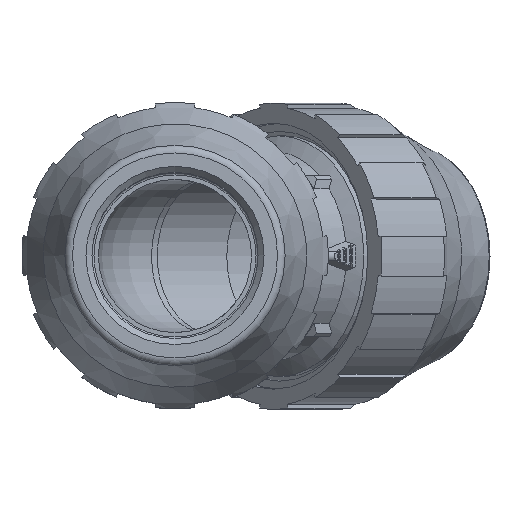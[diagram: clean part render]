
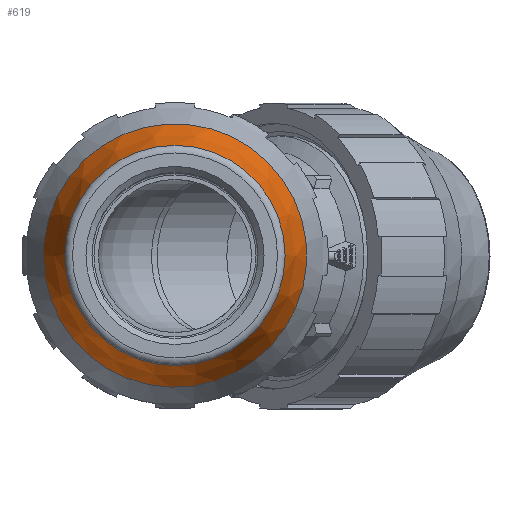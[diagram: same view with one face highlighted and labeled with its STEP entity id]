
A CAD part, top view. The second image highlights one B-rep face of the part: STEP entity #619.
In plain terms, the highlighted conical face has half-angle 19.587 degrees and reference radius 16.34 mm.
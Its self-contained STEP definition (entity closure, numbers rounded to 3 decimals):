
#619 = ADVANCED_FACE( '', ( #1426, #1427 ), #1428, .T. );
#1426 = FACE_OUTER_BOUND( '', #2514, .T. );
#1427 = FACE_BOUND( '', #2515, .T. );
#1428 = CONICAL_SURFACE( '', #2516, 16.34, 0.342 );
#2514 = EDGE_LOOP( '', ( #4161 ) );
#2515 = EDGE_LOOP( '', ( #4162 ) );
#2516 = AXIS2_PLACEMENT_3D( '', #4163, #4164, #4165 );
#4161 = ORIENTED_EDGE( '', *, *, #6656, .F. );
#4162 = ORIENTED_EDGE( '', *, *, #6657, .T. );
#4163 = CARTESIAN_POINT( '', ( 0., 0., 6.754 ) );
#4164 = DIRECTION( '', ( 0., 0., -1. ) );
#4165 = DIRECTION( '', ( -1., 0., 0. ) );
#6656 = EDGE_CURVE( '', #8032, #8032, #8033, .T. );
#6657 = EDGE_CURVE( '', #8034, #8034, #8035, .T. );
#8032 = VERTEX_POINT( '', #9969 );
#8033 = CIRCLE( '', #9970, 16.34 );
#8034 = VERTEX_POINT( '', #9971 );
#8035 = CIRCLE( '', #9972, 13.659 );
#9969 = CARTESIAN_POINT( '', ( -16.34, 0., 6.754 ) );
#9970 = AXIS2_PLACEMENT_3D( '', #12036, #12037, #12038 );
#9971 = CARTESIAN_POINT( '', ( -13.659, 0., 14.287 ) );
#9972 = AXIS2_PLACEMENT_3D( '', #12039, #12040, #12041 );
#12036 = CARTESIAN_POINT( '', ( 0., 0., 6.754 ) );
#12037 = DIRECTION( '', ( 0., 0., -1. ) );
#12038 = DIRECTION( '', ( -1., 0., 0. ) );
#12039 = CARTESIAN_POINT( '', ( 0., 0., 14.287 ) );
#12040 = DIRECTION( '', ( 0., 0., -1. ) );
#12041 = DIRECTION( '', ( -1., 0., 0. ) );
